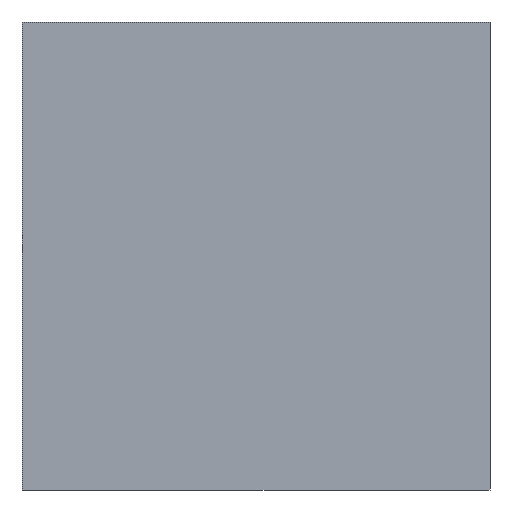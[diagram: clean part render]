
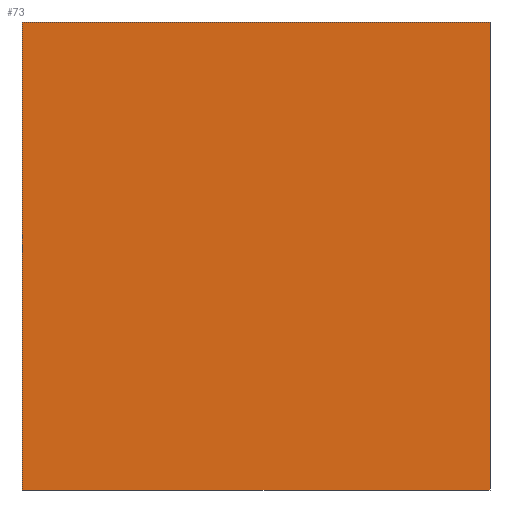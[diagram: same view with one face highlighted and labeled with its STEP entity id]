
A CAD part, left-side view. The second image highlights one B-rep face of the part: STEP entity #73.
In plain terms, the highlighted planar face has unit normal (-1, 0, 0).
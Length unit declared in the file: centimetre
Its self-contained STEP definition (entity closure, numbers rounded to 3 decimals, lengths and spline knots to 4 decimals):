
#25 = DIRECTION ( 'NONE',  ( 0., 0., -1. ) ) ;
#33 = CARTESIAN_POINT ( 'NONE',  ( 0., 1000., 0. ) ) ;
#34 = DIRECTION ( 'NONE',  ( 0., -1., 0. ) ) ;
#42 = VECTOR ( 'NONE', #34, 100. ) ;
#51 = EDGE_CURVE ( 'NONE', #266, #449, #380, .T. ) ;
#60 = ORIENTED_EDGE ( 'NONE', *, *, #340, .T. ) ;
#73 = ADVANCED_FACE ( 'NONE', ( #269 ), #345, .F. ) ;
#85 = ORIENTED_EDGE ( 'NONE', *, *, #125, .T. ) ;
#100 = LINE ( 'NONE', #471, #42 ) ;
#101 = VERTEX_POINT ( 'NONE', #233 ) ;
#125 = EDGE_CURVE ( 'NONE', #445, #449, #100, .T. ) ;
#126 = CARTESIAN_POINT ( 'NONE',  ( 0., 0., 1000. ) ) ;
#144 = CARTESIAN_POINT ( 'NONE',  ( 0., 1000., 1000. ) ) ;
#186 = DIRECTION ( 'NONE',  ( 0., 0., -1. ) ) ;
#188 = LINE ( 'NONE', #144, #214 ) ;
#214 = VECTOR ( 'NONE', #426, 100. ) ;
#229 = LINE ( 'NONE', #417, #450 ) ;
#233 = CARTESIAN_POINT ( 'NONE',  ( 0., 1000., 1000. ) ) ;
#260 = CARTESIAN_POINT ( 'NONE',  ( 0., 0., 1000. ) ) ;
#266 = VERTEX_POINT ( 'NONE', #126 ) ;
#269 = FACE_OUTER_BOUND ( 'NONE', #477, .T. ) ;
#270 = DIRECTION ( 'NONE',  ( 1., 0., 0. ) ) ;
#337 = ORIENTED_EDGE ( 'NONE', *, *, #51, .F. ) ;
#340 = EDGE_CURVE ( 'NONE', #101, #445, #229, .T. ) ;
#345 = PLANE ( 'NONE',  #390 ) ;
#380 = LINE ( 'NONE', #260, #410 ) ;
#390 = AXIS2_PLACEMENT_3D ( 'NONE', #421, #270, #186 ) ;
#392 = EDGE_CURVE ( 'NONE', #101, #266, #188, .T. ) ;
#410 = VECTOR ( 'NONE', #25, 100. ) ;
#411 = DIRECTION ( 'NONE',  ( 0., 0., -1. ) ) ;
#417 = CARTESIAN_POINT ( 'NONE',  ( 0., 1000., 1000. ) ) ;
#421 = CARTESIAN_POINT ( 'NONE',  ( 0., 1000., 1000. ) ) ;
#426 = DIRECTION ( 'NONE',  ( 0., -1., 0. ) ) ;
#445 = VERTEX_POINT ( 'NONE', #33 ) ;
#449 = VERTEX_POINT ( 'NONE', #507 ) ;
#450 = VECTOR ( 'NONE', #411, 100. ) ;
#471 = CARTESIAN_POINT ( 'NONE',  ( 0., 1000., 0. ) ) ;
#477 = EDGE_LOOP ( 'NONE', ( #85, #337, #480, #60 ) ) ;
#480 = ORIENTED_EDGE ( 'NONE', *, *, #392, .F. ) ;
#507 = CARTESIAN_POINT ( 'NONE',  ( 0., 0., 0. ) ) ;
